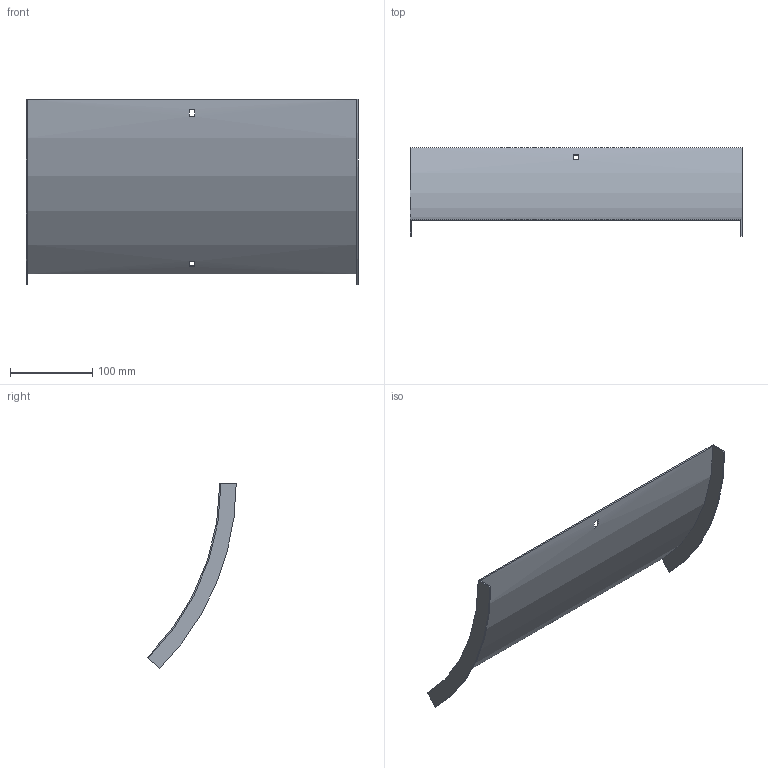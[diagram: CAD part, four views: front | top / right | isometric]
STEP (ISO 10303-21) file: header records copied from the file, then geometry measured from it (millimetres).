
FILE_DESCRIPTION (( 'STEP AP214' ), '1' );
FILE_NAME ('B2X31N3R400X.step', '2025-03-20T09:42:13', ( '' ), ( '' ), 'SwSTEP 2.0', 'SolidWorks 2023', '' );
FILE_SCHEMA (( 'AUTOMOTIVE_DESIGN' ));
Length unit declared in the file: millimetre
Products named in the file (1): B2X31N3R400X
Bounding box: 403 x 107.43 x 225.21 mm (x, y, z)
Volume: 155380.2 mm3; surface area: 209335.4 mm2
Topology: 1 solids, 1 shells, 18 faces, 48 edges, 32 vertices
Faces by surface type: plane 14, cylinder 4
Entity records: 599 total; most frequent: DIRECTION 102, CARTESIAN_POINT 99, ORIENTED_EDGE 96, EDGE_CURVE 48, AXIS2_PLACEMENT_3D 35, VECTOR 32, LINE 32, VERTEX_POINT 32
